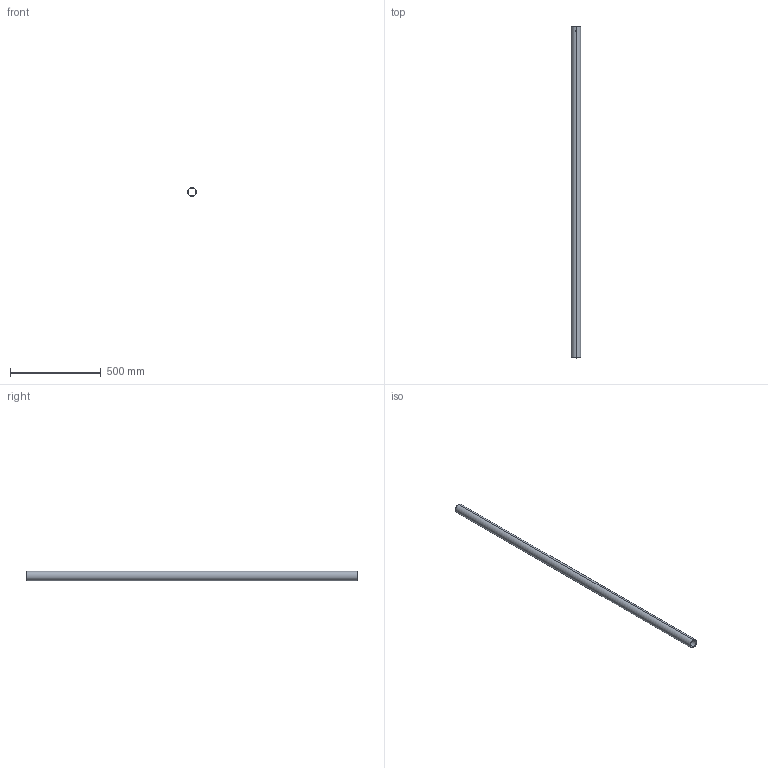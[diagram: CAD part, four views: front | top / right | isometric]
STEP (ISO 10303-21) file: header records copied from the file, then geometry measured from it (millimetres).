
FILE_DESCRIPTION (( 'STEP AP203' ), '1' );
FILE_NAME ('10-0506-00 REV 1, POLE, 2in OD x 6 FT.STEP', '2018-01-25T22:36:56', ( '' ), ( '' ), 'SwSTEP 2.0', 'SolidWorks 2012', '' );
FILE_SCHEMA (( 'CONFIG_CONTROL_DESIGN' ));
Length unit declared in the file: inch
Products named in the file (1): 10-0506-00 REV 1, POLE, 2in OD x 6 FT
Bounding box: 50.8 x 1828.8 x 50.8 mm (x, y, z)
Volume: 836109.4 mm3; surface area: 549609.2 mm2
Topology: 1 solids, 1 shells, 8 faces, 24 edges, 16 vertices
Faces by surface type: cylinder 6, plane 2
Entity records: 483 total; most frequent: CARTESIAN_POINT 185, ORIENTED_EDGE 48, DIRECTION 42, EDGE_CURVE 24, AXIS2_PLACEMENT_3D 17, VERTEX_POINT 16, EDGE_LOOP 10, ADVANCED_FACE 8
